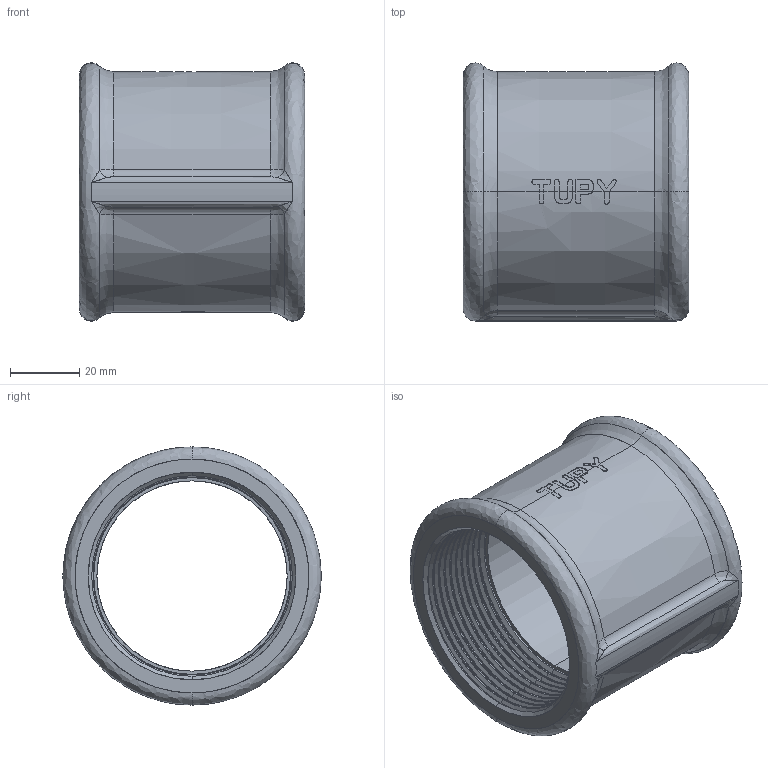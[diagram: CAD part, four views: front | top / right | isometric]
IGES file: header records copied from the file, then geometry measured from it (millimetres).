
Start section: SolidWorks IGES file using analytic representation for surfaces
Global section: file name: C:\Users\Joel Rosa\Desktop\Tubulação\12-36-OK\12-36-010.IGS; native system: SolidWorks 2011; preprocessor: SolidWorks 2011; author: Joel Rosa; date: 131216.203332; units: millimetre
Bounding box: 65 x 74.39 x 74.38 mm (x, y, z)
Surface area: 35248.8 mm2 (no closed solid volume)
Topology: 0 solids, 0 shells, 320 faces, 2814 edges, 2810 vertices
Faces by surface type: bspline 210, revolution 110
